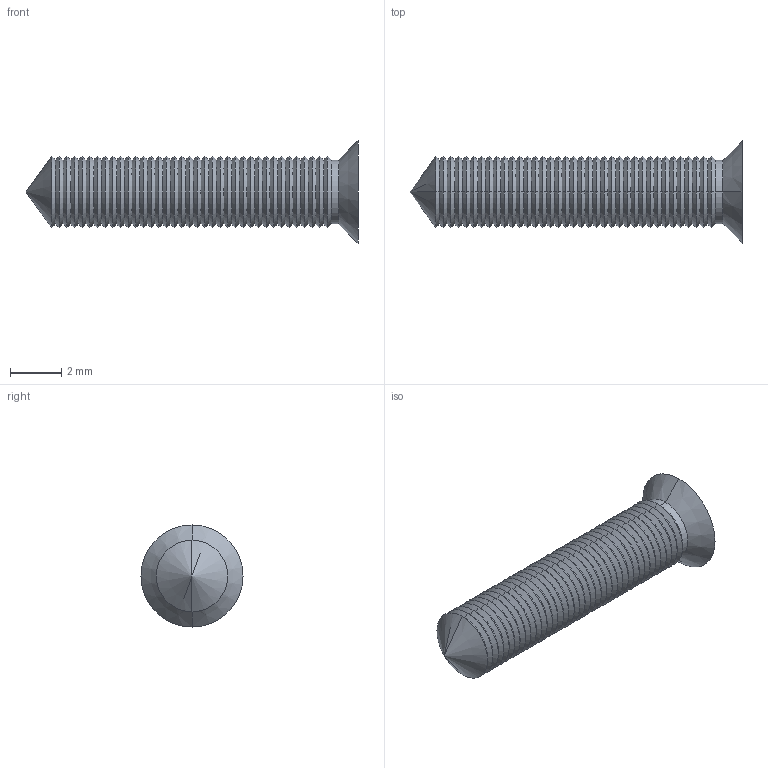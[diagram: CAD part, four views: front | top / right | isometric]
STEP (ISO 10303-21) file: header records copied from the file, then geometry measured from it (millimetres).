
FILE_DESCRIPTION (( 'STEP AP214' ), '1' );
FILE_NAME ('Cargol 2,2x13 PP11.STEP', '2017-08-10T08:26:23', ( 'aaa' ), ( '' ), 'SwSTEP 2.0', 'SolidWorks 2013', '' );
FILE_SCHEMA (( 'AUTOMOTIVE_DESIGN' ));
Length unit declared in the file: millimetre
Products named in the file (1): Cargol 2,2x13 PP11
Bounding box: 13 x 4 x 4 mm (x, y, z)
Volume: 69.5 mm3; surface area: 165.7 mm2
Topology: 1 solids, 1 shells, 166 faces, 342 edges, 177 vertices
Faces by surface type: cone 150, plane 14, cylinder 2
Entity records: 4258 total; most frequent: DIRECTION 826, CARTESIAN_POINT 684, ORIENTED_EDGE 680, EDGE_CURVE 340, AXIS2_PLACEMENT_3D 319, VECTOR 188, LINE 188, VERTEX_POINT 177
